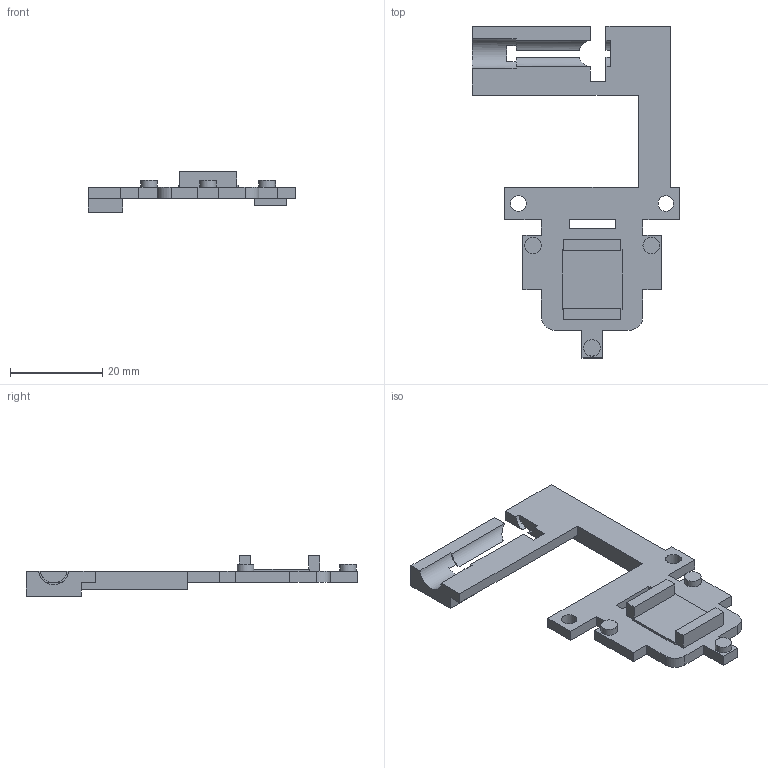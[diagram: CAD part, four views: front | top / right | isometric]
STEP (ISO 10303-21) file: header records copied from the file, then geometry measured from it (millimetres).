
FILE_DESCRIPTION(/* description */ (''),/* implementation_level */ '2;1');
FILE_NAME(/* name */ '07_Control_Bridge.step',/* time_stamp */ '2026-09-16T19:15:03-07:00',/* author */ (''),/* organization */ (''),/* preprocessor_version */ 'ST-DEVELOPER v20.1',/* originating_system */ 'Autodesk Translation Framework v15.8.0.0',/* authorisation */ '');
FILE_SCHEMA (('AUTOMOTIVE_DESIGN { 1 0 10303 214 3 1 1 }'));
Length unit declared in the file: centimetre
Products named in the file (1): 2026-09-16-19-15-03-088
Bounding box: 45 x 72 x 8.8 mm (x, y, z)
Volume: 4508.4 mm3; surface area: 4587.3 mm2
Topology: 1 solids, 1 shells, 82 faces, 226 edges, 150 vertices
Faces by surface type: plane 70, cylinder 12
Full cylindrical faces by diameter (mm): 3.4 x2, 3.6 x3
Entity records: 2632 total; most frequent: CARTESIAN_POINT 459, ORIENTED_EDGE 452, DIRECTION 418, EDGE_CURVE 226, LINE 200, VECTOR 200, VERTEX_POINT 150, AXIS2_PLACEMENT_3D 109
